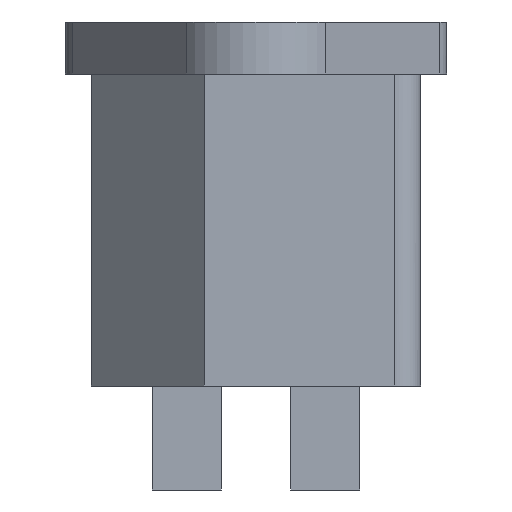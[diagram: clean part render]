
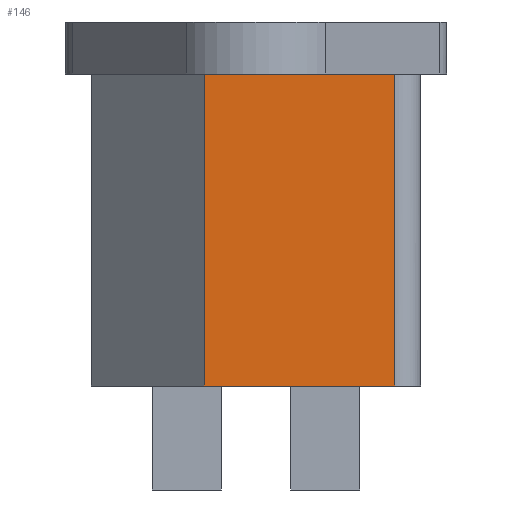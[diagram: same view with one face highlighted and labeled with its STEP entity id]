
A CAD part, front view. The second image highlights one B-rep face of the part: STEP entity #146.
In plain terms, the highlighted free-form (B-spline) face has degree [1, 2] with [2, 3] control points.
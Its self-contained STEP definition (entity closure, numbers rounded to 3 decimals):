
#146=ADVANCED_FACE('',(#280),#4717,.T.);
#280=FACE_OUTER_BOUND('',#437,.T.);
#437=EDGE_LOOP('',(#981,#982,#983,#984));
#981=ORIENTED_EDGE('',*,*,#3939,.F.);
#982=ORIENTED_EDGE('',*,*,#3975,.T.);
#983=ORIENTED_EDGE('',*,*,#3954,.F.);
#984=ORIENTED_EDGE('',*,*,#3976,.T.);
#1641=PCURVE('',#4649,#2345);
#1656=PCURVE('',#4650,#2360);
#1685=PCURVE('',#4717,#2389);
#1686=PCURVE('',#4717,#2390);
#1687=PCURVE('',#4717,#2391);
#1688=PCURVE('',#4717,#2392);
#1690=PCURVE('',#4718,#2394);
#1716=PCURVE('',#4724,#2420);
#2345=DEFINITIONAL_REPRESENTATION('',(#3042),#8414);
#2360=DEFINITIONAL_REPRESENTATION('',(#4320),#8414);
#2389=DEFINITIONAL_REPRESENTATION('',(#3091),#8414);
#2390=DEFINITIONAL_REPRESENTATION('',(#3092),#8414);
#2391=DEFINITIONAL_REPRESENTATION('',(#3093),#8414);
#2392=DEFINITIONAL_REPRESENTATION('',(#3094),#8414);
#2394=DEFINITIONAL_REPRESENTATION('',(#3096),#8414);
#2420=DEFINITIONAL_REPRESENTATION('',(#3122),#8414);
#3042=B_SPLINE_CURVE_WITH_KNOTS('',3,(#7515,#7516,#7517,#7518),
 .UNSPECIFIED.,.F.,.F.,(4,4),(0.,11.),.UNSPECIFIED.);
#3091=B_SPLINE_CURVE_WITH_KNOTS('',1,(#7783,#7784),.UNSPECIFIED.,.F.,.F.,
(2,2),(0.,11.),.UNSPECIFIED.);
#3092=B_SPLINE_CURVE_WITH_KNOTS('',1,(#7787,#7788),.UNSPECIFIED.,.F.,.F.,
(2,2),(3.,21.),.UNSPECIFIED.);
#3093=B_SPLINE_CURVE_WITH_KNOTS('',1,(#7789,#7790),.UNSPECIFIED.,.F.,.F.,
(2,2),(-11.,0.),.UNSPECIFIED.);
#3094=B_SPLINE_CURVE_WITH_KNOTS('',1,(#7793,#7794),.UNSPECIFIED.,.F.,.F.,
(2,2),(-21.,-3.),.UNSPECIFIED.);
#3096=B_SPLINE_CURVE_WITH_KNOTS('',1,(#7797,#7798),.UNSPECIFIED.,.F.,.F.,
(2,2),(-21.,-3.),.UNSPECIFIED.);
#3122=B_SPLINE_CURVE_WITH_KNOTS('',1,(#7861,#7862),.UNSPECIFIED.,.F.,.F.,
(2,2),(3.,21.),.UNSPECIFIED.);
#3587=SURFACE_CURVE('',#4298,(#1641,#1685),.PCURVE_S1.);
#3602=SURFACE_CURVE('',#4319,(#1656,#1687),.PCURVE_S1.);
#3623=SURFACE_CURVE('',#4329,(#1686,#1716),.PCURVE_S1.);
#3624=SURFACE_CURVE('',#4330,(#1688,#1690),.PCURVE_S1.);
#3939=EDGE_CURVE('',#4526,#4525,#3587,.T.);
#3954=EDGE_CURVE('',#4509,#4510,#3602,.T.);
#3975=EDGE_CURVE('',#4526,#4510,#3623,.T.);
#3976=EDGE_CURVE('',#4509,#4525,#3624,.T.);
#4298=(
BOUNDED_CURVE()
B_SPLINE_CURVE(2,(#7512,#7513,#7514),.UNSPECIFIED.,.F.,.F.)
B_SPLINE_CURVE_WITH_KNOTS((3,3),(0.,11.),.UNSPECIFIED.)
CURVE()
GEOMETRIC_REPRESENTATION_ITEM()
RATIONAL_B_SPLINE_CURVE((1.,1.,1.))
REPRESENTATION_ITEM('')
);
#4319=(
BOUNDED_CURVE()
B_SPLINE_CURVE(2,(#7619,#7620,#7621),.UNSPECIFIED.,.F.,.F.)
B_SPLINE_CURVE_WITH_KNOTS((3,3),(-11.,0.),.UNSPECIFIED.)
CURVE()
GEOMETRIC_REPRESENTATION_ITEM()
RATIONAL_B_SPLINE_CURVE((1.,1.,1.))
REPRESENTATION_ITEM('')
);
#4320=(
BOUNDED_CURVE()
B_SPLINE_CURVE(2,(#7622,#7623,#7624),.UNSPECIFIED.,.F.,.F.)
B_SPLINE_CURVE_WITH_KNOTS((3,3),(-11.,0.),.UNSPECIFIED.)
CURVE()
GEOMETRIC_REPRESENTATION_ITEM()
RATIONAL_B_SPLINE_CURVE((1.,1.,1.))
REPRESENTATION_ITEM('')
);
#4329=(
BOUNDED_CURVE()
B_SPLINE_CURVE(1,(#7785,#7786),.UNSPECIFIED.,.F.,.F.)
B_SPLINE_CURVE_WITH_KNOTS((2,2),(3.,21.),.UNSPECIFIED.)
CURVE()
GEOMETRIC_REPRESENTATION_ITEM()
RATIONAL_B_SPLINE_CURVE((1.,1.))
REPRESENTATION_ITEM('')
);
#4330=(
BOUNDED_CURVE()
B_SPLINE_CURVE(1,(#7791,#7792),.UNSPECIFIED.,.F.,.F.)
B_SPLINE_CURVE_WITH_KNOTS((2,2),(-21.,-3.),.UNSPECIFIED.)
CURVE()
GEOMETRIC_REPRESENTATION_ITEM()
RATIONAL_B_SPLINE_CURVE((1.,1.))
REPRESENTATION_ITEM('')
);
#4509=VERTEX_POINT('',#6968);
#4510=VERTEX_POINT('',#6969);
#4525=VERTEX_POINT('',#6984);
#4526=VERTEX_POINT('',#6985);
#4649=PLANE('',#4803);
#4650=PLANE('',#4804);
#4717=(
BOUNDED_SURFACE()
B_SPLINE_SURFACE(1,2,((#6773,#6774,#6775),(#6776,#6777,#6778)),
 .UNSPECIFIED.,.F.,.F.,.F.)
B_SPLINE_SURFACE_WITH_KNOTS((2,2),(3,3),(0.,21.),(0.,11.),
 .UNSPECIFIED.)
GEOMETRIC_REPRESENTATION_ITEM()
RATIONAL_B_SPLINE_SURFACE(((1.,1.,1.),(1.,1.,1.)))
REPRESENTATION_ITEM('')
SURFACE()
);
#4718=(
BOUNDED_SURFACE()
B_SPLINE_SURFACE(1,2,((#6779,#6780,#6781),(#6782,#6783,#6784)),
 .UNSPECIFIED.,.F.,.F.,.F.)
B_SPLINE_SURFACE_WITH_KNOTS((2,2),(3,3),(0.,21.),(11.,13.356),
 .UNSPECIFIED.)
GEOMETRIC_REPRESENTATION_ITEM()
RATIONAL_B_SPLINE_SURFACE(((1.,0.707,1.),(1.,0.707,
1.)))
REPRESENTATION_ITEM('')
SURFACE()
);
#4724=(
BOUNDED_SURFACE()
B_SPLINE_SURFACE(1,2,((#6815,#6816,#6817),(#6818,#6819,#6820)),
 .UNSPECIFIED.,.F.,.F.,.F.)
B_SPLINE_SURFACE_WITH_KNOTS((2,2),(3,3),(0.,21.),(73.198,81.683),
 .UNSPECIFIED.)
GEOMETRIC_REPRESENTATION_ITEM()
RATIONAL_B_SPLINE_SURFACE(((1.,1.,1.),(1.,1.,1.)))
REPRESENTATION_ITEM('')
SURFACE()
);
#4803=AXIS2_PLACEMENT_3D('',#6918,#4876,$);
#4804=AXIS2_PLACEMENT_3D('',#6919,#4877,$);
#4876=DIRECTION('',(0.,0.,-1.));
#4877=DIRECTION('',(0.,0.,-1.));
#6773=CARTESIAN_POINT('',(296.,408.,-111.));
#6774=CARTESIAN_POINT('',(301.5,408.,-111.));
#6775=CARTESIAN_POINT('',(307.,408.,-111.));
#6776=CARTESIAN_POINT('',(296.,408.,-132.));
#6777=CARTESIAN_POINT('',(301.5,408.,-132.));
#6778=CARTESIAN_POINT('',(307.,408.,-132.));
#6779=CARTESIAN_POINT('',(307.,408.,-111.));
#6780=CARTESIAN_POINT('',(308.5,408.,-111.));
#6781=CARTESIAN_POINT('',(308.5,409.5,-111.));
#6782=CARTESIAN_POINT('',(307.,408.,-132.));
#6783=CARTESIAN_POINT('',(308.5,408.,-132.));
#6784=CARTESIAN_POINT('',(308.5,409.5,-132.));
#6815=CARTESIAN_POINT('',(289.5,414.5,-111.));
#6816=CARTESIAN_POINT('',(292.75,411.25,-111.));
#6817=CARTESIAN_POINT('',(296.,408.,-111.));
#6818=CARTESIAN_POINT('',(289.5,414.5,-132.));
#6819=CARTESIAN_POINT('',(292.75,411.25,-132.));
#6820=CARTESIAN_POINT('',(296.,408.,-132.));
#6918=CARTESIAN_POINT('',(312.75,390.25,-114.));
#6919=CARTESIAN_POINT('',(310.875,404.625,-132.));
#6968=CARTESIAN_POINT('',(307.,408.,-132.));
#6969=CARTESIAN_POINT('',(296.,408.,-132.));
#6984=CARTESIAN_POINT('',(307.,408.,-114.));
#6985=CARTESIAN_POINT('',(296.,408.,-114.));
#7512=CARTESIAN_POINT('',(296.,408.,-114.));
#7513=CARTESIAN_POINT('',(301.5,408.,-114.));
#7514=CARTESIAN_POINT('',(307.,408.,-114.));
#7515=CARTESIAN_POINT('',(-7.6,-27.7));
#7516=CARTESIAN_POINT('',(-11.267,-27.7));
#7517=CARTESIAN_POINT('',(-14.933,-27.7));
#7518=CARTESIAN_POINT('',(-18.6,-27.7));
#7619=CARTESIAN_POINT('',(307.,408.,-132.));
#7620=CARTESIAN_POINT('',(301.5,408.,-132.));
#7621=CARTESIAN_POINT('',(296.,408.,-132.));
#7622=CARTESIAN_POINT('',(-11.,0.));
#7623=CARTESIAN_POINT('',(-5.5,0.));
#7624=CARTESIAN_POINT('',(0.,0.));
#7783=CARTESIAN_POINT('',(3.,0.));
#7784=CARTESIAN_POINT('',(3.,11.));
#7785=CARTESIAN_POINT('',(296.,408.,-114.));
#7786=CARTESIAN_POINT('',(296.,408.,-132.));
#7787=CARTESIAN_POINT('',(3.,0.));
#7788=CARTESIAN_POINT('',(21.,0.));
#7789=CARTESIAN_POINT('',(21.,11.));
#7790=CARTESIAN_POINT('',(21.,0.));
#7791=CARTESIAN_POINT('',(307.,408.,-132.));
#7792=CARTESIAN_POINT('',(307.,408.,-114.));
#7793=CARTESIAN_POINT('',(21.,11.));
#7794=CARTESIAN_POINT('',(3.,11.));
#7797=CARTESIAN_POINT('',(21.,11.));
#7798=CARTESIAN_POINT('',(3.,11.));
#7861=CARTESIAN_POINT('',(3.,81.683));
#7862=CARTESIAN_POINT('',(21.,81.683));
#8414=(
GEOMETRIC_REPRESENTATION_CONTEXT(2)
PARAMETRIC_REPRESENTATION_CONTEXT()
REPRESENTATION_CONTEXT('pspace','')
);
